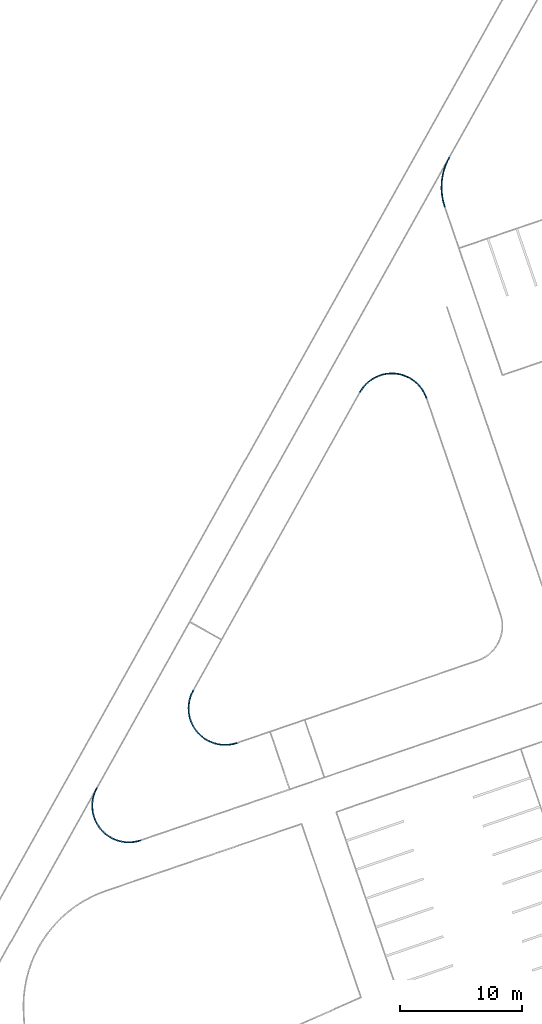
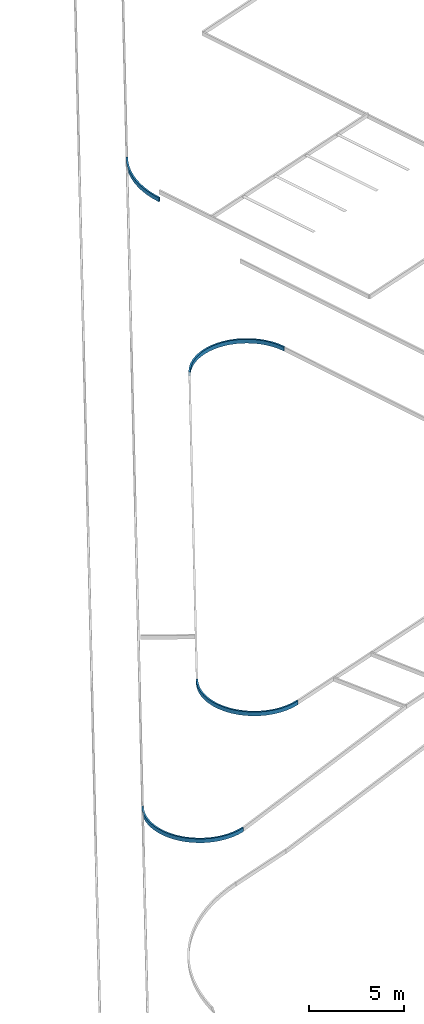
# One storey, part 93 of 112: 4 beams.
"""IFC2X3 building model written with IfcOpenShell, lengths in millimetres."""

from ifc_helpers import new_model, entity, si_unit, converted_unit, derived_unit, direction, frame, origin, place, context, subcontext, project, spatial, faceted_brep, material, type_object, element, save


model = new_model("IFC2X3")

# Units and contexts
model_context = context("Model", 3, precision=0.01, world=origin(), true_north=direction((6.123031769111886e-17, 1.0)))
body_context = subcontext(model_context, "Body", "Model", "MODEL_VIEW")
ifc_project = project(units=[si_unit("LENGTHUNIT", "METRE", prefix="MILLI"), si_unit("AREAUNIT", "SQUARE_METRE"), si_unit("VOLUMEUNIT", "CUBIC_METRE"), converted_unit("PLANEANGLEUNIT", "DEGREE", entity("IfcRatioMeasure", 0.017453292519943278), si_unit("PLANEANGLEUNIT", "RADIAN"), dimensions=[0, 0, 0, 0, 0, 0, 0]), si_unit("MASSUNIT", "GRAM", prefix="KILO"), derived_unit("MASSDENSITYUNIT", [(si_unit("MASSUNIT", "GRAM", prefix="KILO"), 1), (si_unit("LENGTHUNIT", "METRE"), -3)]), derived_unit("MOMENTOFINERTIAUNIT", [(si_unit("LENGTHUNIT", "METRE"), 4)]), si_unit("TIMEUNIT", "SECOND"), si_unit("FREQUENCYUNIT", "HERTZ"), si_unit("THERMODYNAMICTEMPERATUREUNIT", "DEGREE_CELSIUS"), derived_unit("THERMALTRANSMITTANCEUNIT", [(si_unit("MASSUNIT", "GRAM", prefix="KILO"), 1), (si_unit("THERMODYNAMICTEMPERATUREUNIT", "KELVIN"), -1), (si_unit("TIMEUNIT", "SECOND"), -3)]), derived_unit("THERMALCONDUCTANCEUNIT", [(si_unit("MASSUNIT", "GRAM", prefix="KILO"), 1), (si_unit("LENGTHUNIT", "METRE"), 1), (si_unit("THERMODYNAMICTEMPERATUREUNIT", "KELVIN"), -1), (si_unit("TIMEUNIT", "SECOND"), -3)]), derived_unit("VOLUMETRICFLOWRATEUNIT", [(si_unit("LENGTHUNIT", "METRE"), 3), (si_unit("TIMEUNIT", "SECOND"), -1)]), derived_unit("MASSFLOWRATEUNIT", [(si_unit("MASSUNIT", "GRAM", prefix="KILO"), 1), (si_unit("TIMEUNIT", "SECOND"), -1)]), derived_unit("ROTATIONALFREQUENCYUNIT", [(si_unit("TIMEUNIT", "SECOND"), -1)]), si_unit("ELECTRICCURRENTUNIT", "AMPERE"), si_unit("ELECTRICVOLTAGEUNIT", "VOLT"), si_unit("POWERUNIT", "WATT"), converted_unit("FORCEUNIT", "KIP", entity("IfcRatioMeasure", 2.088543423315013e-05), si_unit("FORCEUNIT", "NEWTON"), dimensions=[1, 1, -2, 0, 0, 0, 0]), si_unit("ILLUMINANCEUNIT", "LUX"), si_unit("LUMINOUSFLUXUNIT", "LUMEN"), si_unit("LUMINOUSINTENSITYUNIT", "CANDELA"), derived_unit("USERDEFINED", [(si_unit("MASSUNIT", "GRAM", prefix="KILO"), -1), (si_unit("LENGTHUNIT", "METRE"), -2), (si_unit("TIMEUNIT", "SECOND"), 3), (si_unit("LUMINOUSFLUXUNIT", "LUMEN"), 1)]), derived_unit("USERDEFINED", [(si_unit("MASSUNIT", "GRAM", prefix="KILO"), 1), (si_unit("LENGTHUNIT", "METRE"), 3), (si_unit("TIMEUNIT", "SECOND"), -3), (si_unit("ELECTRICCURRENTUNIT", "AMPERE"), -2)]), derived_unit("USERDEFINED", [(si_unit("LENGTHUNIT", "METRE"), 2), (si_unit("TIMEUNIT", "SECOND"), -2)]), derived_unit("SOUNDPOWERUNIT", [(si_unit("MASSUNIT", "GRAM", prefix="KILO"), 1), (si_unit("LENGTHUNIT", "METRE"), 2), (si_unit("TIMEUNIT", "SECOND"), -3)]), derived_unit("SOUNDPRESSUREUNIT", [(si_unit("MASSUNIT", "GRAM", prefix="KILO"), 1), (si_unit("LENGTHUNIT", "METRE"), -1), (si_unit("TIMEUNIT", "SECOND"), -2)]), derived_unit("LINEARVELOCITYUNIT", [(si_unit("LENGTHUNIT", "METRE"), 1), (si_unit("TIMEUNIT", "SECOND"), -1)]), si_unit("PRESSUREUNIT", "PASCAL"), derived_unit("USERDEFINED", [(si_unit("LENGTHUNIT", "METRE"), -2), (si_unit("MASSUNIT", "GRAM", prefix="KILO"), 1), (si_unit("TIMEUNIT", "SECOND"), -2)]), derived_unit("LINEARFORCEUNIT", [(si_unit("MASSUNIT", "GRAM", prefix="KILO"), 1), (si_unit("LENGTHUNIT", "METRE"), 1), (si_unit("TIMEUNIT", "SECOND"), -2), (si_unit("LENGTHUNIT", "METRE"), -1)]), derived_unit("PLANARFORCEUNIT", [(si_unit("MASSUNIT", "GRAM", prefix="KILO"), 1), (si_unit("LENGTHUNIT", "METRE"), 1), (si_unit("TIMEUNIT", "SECOND"), -2), (si_unit("LENGTHUNIT", "METRE"), -2)]), derived_unit("SPECIFICHEATCAPACITYUNIT", [(si_unit("LENGTHUNIT", "METRE"), 2), (si_unit("TIMEUNIT", "SECOND"), -2), (si_unit("THERMODYNAMICTEMPERATUREUNIT", "KELVIN"), -1)]), derived_unit("VAPORPERMEABILITYUNIT", [(si_unit("TIMEUNIT", "SECOND"), 1), (si_unit("LENGTHUNIT", "METRE"), -1)]), derived_unit("DYNAMICVISCOSITYUNIT", [(si_unit("MASSUNIT", "GRAM", prefix="KILO"), 1), (si_unit("LENGTHUNIT", "METRE"), -1), (si_unit("TIMEUNIT", "SECOND"), -1)]), derived_unit("THERMALEXPANSIONCOEFFICIENTUNIT", [(si_unit("THERMODYNAMICTEMPERATUREUNIT", "KELVIN"), -1)])], contexts=[model_context])

# Site, building, storey
site_placement = place(None, frame((0.0, 0.0, 0.0), z_axis=(0.0, 0.0, 1.0), x_axis=(0.8191520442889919, 0.5735764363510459, 0.0)))
site = spatial("IfcSite", under=ifc_project, at=site_placement, Name="Default", CompositionType="ELEMENT")
building_placement = place(site_placement, origin())
building = spatial("IfcBuilding", under=site, at=building_placement, CompositionType="ELEMENT")
storey_placement = place(building_placement, frame((0.0, 0.0, -3600.0)))
storey = spatial("IfcBuildingStorey", under=building, at=storey_placement, Name="0.UG -3.60", CompositionType="ELEMENT", Elevation=-3600.0000000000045)

# Beams
ifc_material = material(Name="Paveta_bordur")
beam_type_1 = type_object("IfcBeamType", Name="Beam-160", PredefinedType="NOTDEFINED")
beam_1_placement = place(storey_placement, frame((68074.18437728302, 141673.35695483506, 860.0)))
element("IfcBeam", 1, at=beam_1_placement, inside=storey, type_object=beam_type_1, material=ifc_material, Name="Beam-160:Beam-160", ObjectType="Beam-160:Beam-160", context=body_context, shape_type="Brep", body=[
    faceted_brep([(97.66856973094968, 1.5952722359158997, 0.0), (97.66856973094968, 1.5952722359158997, 250.0), (1.5952722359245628, 29.342731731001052, 250.0), (1.5952722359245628, 29.342731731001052, 0.0), (2655.5742816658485, 3174.799860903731, 0.0), (2655.5742816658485, 3174.799860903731, 250.0), (2699.093539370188, 3084.7661216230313, 250.0), (2699.093539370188, 3084.7661216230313, 0.0), (171.25365908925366, 234.63643026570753, 0.0), (171.25365908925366, 234.63643026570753, 250.0), (256.25086609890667, 463.76177044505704, 0.0), (352.4530166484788, 688.4128174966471, 0.0), (352.4530166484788, 688.4128174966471, 250.0), (256.25086609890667, 463.76177044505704, 250.0), (844.2241376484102, 1531.5140856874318, 250.0), (705.8112151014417, 1330.1070113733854, 250.0), (705.8112151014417, 1330.1070113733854, 0.0), (844.2241376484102, 1531.5140856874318, 0.0), (577.5074675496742, 1122.1139944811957, 250.0), (459.62562544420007, 908.0420018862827, 250.0), (459.62562544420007, 908.0420018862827, 0.0), (577.5074675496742, 1122.1139944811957, 0.0), (992.4088644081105, 1725.8443032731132, 250.0), (992.4088644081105, 1725.8443032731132, 0.0), (1150.0042065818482, 1912.6239992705, 0.0), (1150.0042065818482, 1912.6239992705, 250.0), (1491.8682300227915, 2261.7302957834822, 250.0), (1316.6260377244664, 2091.3979126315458, 250.0), (1316.6260377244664, 2091.3979126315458, 0.0), (1491.8682300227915, 2261.7302957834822, 0.0), (1675.303644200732, 2423.205976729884, 250.0), (1675.303644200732, 2423.205976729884, 0.0), (2481.7589772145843, 2973.0135610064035, 0.0), (2481.7589772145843, 2973.0135610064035, 250.0), (2270.2048548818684, 2850.6706002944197, 250.0), (2270.2048548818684, 2850.6706002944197, 0.0), (2064.946819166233, 2718.03544098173, 250.0), (1866.4851706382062, 2575.4313710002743, 250.0), (1866.4851706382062, 2575.4313710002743, 0.0), (2064.946819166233, 2718.03544098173, 0.0), (1423.9605822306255, 2335.13704868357, 250.0), (1075.190214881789, 1978.978099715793, 250.0), (914.4111284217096, 1788.4250765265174, 250.0), (622.0236276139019, 1384.6930918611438, 250.0), (370.86459170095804, 954.1015165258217, 250.0), (163.38125135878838, 500.8459268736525, 250.0), (2218.0211793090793, 2935.9751371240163, 250.0), (1806.1455418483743, 2655.1755193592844, 250.0), (163.38125135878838, 500.8459268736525, 0.0), (622.0236276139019, 1384.6930918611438, 0.0), (370.8645917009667, 954.1015165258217, 0.0), (914.4111284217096, 1788.4250765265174, 0.0), (1075.190214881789, 1978.978099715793, 0.0), (1423.9605822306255, 2335.13704868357, 0.0), (2218.0211793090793, 2935.9751371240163, 0.0), (1806.145541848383, 2655.1755193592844, 0.0)], [[[0, 1, 2, 3]], [[4, 5, 6, 7]], [[0, 8, 9, 1]], [[10, 11, 12, 13]], [[10, 13, 9, 8]], [[14, 15, 16, 17]], [[18, 19, 20, 21]], [[18, 21, 16, 15]], [[19, 12, 11, 20]], [[22, 14, 17, 23]], [[23, 24, 25, 22]], [[26, 27, 28, 29]], [[27, 25, 24, 28]], [[30, 26, 29, 31]], [[32, 33, 34, 35]], [[36, 37, 38, 39]], [[34, 36, 39, 35]], [[38, 37, 30, 31]], [[6, 33, 32, 7]], [[40, 41, 42, 43, 44, 45, 2, 1, 9, 13, 12, 19, 18, 15, 14, 22, 25, 27, 26, 30, 37, 36, 34, 33, 6, 5, 46, 47]], [[2, 45, 48, 3]], [[49, 50, 44, 43]], [[45, 44, 50, 48]], [[42, 51, 49, 43]], [[42, 41, 52, 51]], [[53, 52, 41, 40]], [[54, 55, 47, 46]], [[40, 47, 55, 53]], [[4, 54, 46, 5]], [[31, 29, 28, 24, 23, 17, 16, 21, 20, 11, 10, 8, 0, 3, 48, 50, 49, 51, 52, 53, 55, 54, 4, 7, 32, 35, 39, 38]]]),
])
beam_type_2 = type_object("IfcBeamType", Name="Beam-163", PredefinedType="NOTDEFINED")
beam_2_placement = place(storey_placement, frame((15664.354400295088, 113387.02361337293, 860.0)))
element("IfcBeam", 2, at=beam_2_placement, inside=storey, type_object=beam_type_2, material=ifc_material, Name="Beam-163 237331:Beam-163 237331", ObjectType="Beam-163 237331:Beam-163 237331", context=body_context, shape_type="Brep", body=[
    faceted_brep([(1767.1116898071, 5587.833126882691, 250.0), (1767.1116898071, 5587.833126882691, 0.0), (1723.5929210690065, 5677.867102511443, 0.0), (1723.5929210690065, 5677.867102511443, 250.0), (2204.617852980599, 1.5952722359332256, 0.0), (2232.36531247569, 97.66856973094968, 0.0), (2232.36531247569, 97.66856973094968, 250.0), (2204.617852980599, 1.5952722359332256, 250.0), (2049.614437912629, 156.96211952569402, 0.0), (1840.7085984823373, 132.20594666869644, 0.0), (1496.247096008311, 307.8059668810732, 0.0), (1176.7687648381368, 525.5734798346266, 0.0), (887.4075502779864, 782.0090103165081, 0.0), (632.8134223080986, 1072.9916967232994, 0.0), (417.07765160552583, 1393.8455123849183, 0.0), (243.66706373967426, 1739.4144082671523, 0.0), (115.36832806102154, 2104.1451695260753, 0.0), (34.24317654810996, 2482.1766544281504, 0.0), (1.5952722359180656, 2867.4339815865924, 0.0), (17.949259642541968, 3253.726151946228, 0.0), (83.04233384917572, 3634.845536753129, 0.0), (195.82846371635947, 4004.6676327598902, 0.0), (354.4952013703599, 4357.249481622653, 0.0), (556.4928078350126, 4686.92517191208, 0.0), (798.5752267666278, 4988.3968890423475, 0.0), (1076.8522478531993, 5256.820049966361, 0.0), (1386.852021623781, 5487.881154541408, 0.0), (1596.9446974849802, 5498.632219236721, 0.0), (1432.9450481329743, 5398.543647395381, 0.0), (1275.8083830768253, 5287.991959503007, 0.0), (1126.2012327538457, 5167.446085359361, 0.0), (984.7581894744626, 5037.417347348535, 0.0), (852.0792156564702, 4898.457291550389, 0.0), (728.727098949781, 4751.155348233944, 0.0), (615.2250650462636, 4596.1363316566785, 0.0), (512.0545583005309, 4434.057789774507, 0.0), (419.6531995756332, 4265.60721510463, 0.0), (338.412929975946, 4091.4991285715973, 0.0), (268.6783483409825, 3912.472048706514, 0.0), (210.74524955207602, 3729.2853590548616, 0.0), (164.85936985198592, 3542.7160870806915, 0.0), (131.21534449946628, 3353.5556082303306, 0.0), (109.95588218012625, 3162.6062891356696, 0.0), (101.1711596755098, 2970.678084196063, 0.0), (104.89843935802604, 2778.5850999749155, 0.0), (121.12191113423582, 2587.142141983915, 0.0), (149.77275950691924, 2397.161258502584, 0.0), (190.729455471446, 2209.4482960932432, 0.0), (243.81827200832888, 2024.7994814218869, 0.0), (308.8140209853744, 1843.9980438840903, 0.0), (385.4410083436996, 1667.8108933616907, 0.0), (473.3742035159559, 1496.9853672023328, 0.0), (572.240618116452, 1332.2460602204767, 0.0), (681.6208880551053, 1174.2917511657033, 0.0), (801.0510523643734, 1023.7924386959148, 0.0), (930.0245211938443, 881.3864994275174, 0.0), (1067.99422462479, 747.6779801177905, 0.0), (1214.3749331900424, 623.2340354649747, 0.0), (1368.5457402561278, 508.58252239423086, 0.0), (1529.8526957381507, 404.20976103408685, 0.0), (1697.6115799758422, 310.5584718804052, 0.0), (1871.1108060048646, 228.02589789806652, 0.0), (1386.852021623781, 5487.881154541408, 250.0), (556.4928078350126, 4686.92517191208, 250.0), (798.5752267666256, 4988.3968890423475, 250.0), (1076.8522478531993, 5256.820049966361, 250.0), (17.9492596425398, 3253.726151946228, 250.0), (83.04233384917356, 3634.845536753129, 250.0), (354.49520137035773, 4357.24948162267, 250.0), (195.82846371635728, 4004.6676327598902, 250.0), (1.5952722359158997, 2867.4339815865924, 250.0), (34.24317654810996, 2482.1766544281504, 250.0), (243.66706373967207, 1739.4144082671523, 250.0), (417.07765160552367, 1393.8455123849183, 250.0), (115.36832806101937, 2104.1451695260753, 250.0), (632.8134223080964, 1072.9916967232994, 250.0), (1840.708598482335, 132.2059466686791, 250.0), (1496.247096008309, 307.8059668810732, 250.0), (887.4075502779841, 782.0090103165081, 250.0), (1176.7687648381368, 525.5734798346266, 250.0), (2049.614437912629, 156.96211952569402, 250.0), (1871.1108060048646, 228.02589789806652, 250.0), (1697.6115799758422, 310.5584718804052, 250.0), (1529.8526957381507, 404.20976103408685, 250.0), (1368.5457402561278, 508.58252239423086, 250.0), (1214.3749331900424, 623.2340354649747, 250.0), (1067.99422462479, 747.6779801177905, 250.0), (930.0245211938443, 881.3864994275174, 250.0), (801.0510523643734, 1023.7924386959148, 250.0), (681.6208880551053, 1174.2917511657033, 250.0), (572.240618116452, 1332.2460602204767, 250.0), (473.3742035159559, 1496.9853672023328, 250.0), (385.4410083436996, 1667.8108933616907, 250.0), (308.8140209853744, 1843.9980438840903, 250.0), (243.81827200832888, 2024.7994814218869, 250.0), (190.729455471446, 2209.4482960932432, 250.0), (149.77275950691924, 2397.161258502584, 250.0), (121.12191113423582, 2587.142141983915, 250.0), (104.89843935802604, 2778.5850999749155, 250.0), (101.1711596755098, 2970.678084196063, 250.0), (109.95588218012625, 3162.6062891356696, 250.0), (131.21534449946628, 3353.5556082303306, 250.0), (164.85936985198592, 3542.7160870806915, 250.0), (210.74524955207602, 3729.2853590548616, 250.0), (268.6783483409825, 3912.472048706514, 250.0), (338.412929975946, 4091.4991285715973, 250.0), (419.6531995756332, 4265.60721510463, 250.0), (512.0545583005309, 4434.057789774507, 250.0), (615.2250650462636, 4596.1363316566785, 250.0), (728.727098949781, 4751.155348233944, 250.0), (852.0792156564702, 4898.457291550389, 250.0), (984.7581894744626, 5037.417347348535, 250.0), (1126.2012327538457, 5167.446085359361, 250.0), (1275.8083830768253, 5287.991959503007, 250.0), (1432.9450481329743, 5398.543647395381, 250.0), (1596.9446974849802, 5498.632219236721, 250.0)], [[[0, 1, 2, 3]], [[4, 5, 6, 7]], [[8, 5, 4, 9, 10, 11, 12, 13, 14, 15, 16, 17, 18, 19, 20, 21, 22, 23, 24, 25, 26, 2, 1, 27, 28, 29, 30, 31, 32, 33, 34, 35, 36, 37, 38, 39, 40, 41, 42, 43, 44, 45, 46, 47, 48, 49, 50, 51, 52, 53, 54, 55, 56, 57, 58, 59, 60, 61]], [[62, 3, 2, 26]], [[63, 64, 24, 23]], [[26, 25, 65, 62]], [[24, 64, 65, 25]], [[20, 19, 66, 67]], [[68, 22, 21, 69]], [[69, 21, 20, 67]], [[23, 22, 68, 63]], [[66, 19, 18, 70]], [[18, 17, 71, 70]], [[72, 15, 14, 73]], [[71, 17, 16, 74]], [[15, 72, 74, 16]], [[73, 14, 13, 75]], [[10, 9, 76, 77]], [[78, 12, 11, 79]], [[79, 11, 10, 77]], [[13, 12, 78, 75]], [[76, 9, 4, 7]], [[7, 6, 80, 81, 82, 83, 84, 85, 86, 87, 88, 89, 90, 91, 92, 93, 94, 95, 96, 97, 98, 99, 100, 101, 102, 103, 104, 105, 106, 107, 108, 109, 110, 111, 112, 113, 114, 115, 0, 3, 62, 65, 64, 63, 68, 69, 67, 66, 70, 71, 74, 72, 73, 75, 78, 79, 77, 76]], [[1, 0, 115, 27]], [[28, 27, 115, 114]], [[113, 29, 28, 114]], [[31, 30, 112, 111]], [[33, 32, 110, 109]], [[33, 109, 108, 34]], [[29, 113, 112, 30]], [[32, 31, 111, 110]], [[40, 39, 103, 102]], [[42, 41, 101, 100]], [[102, 101, 41, 40]], [[43, 42, 100, 99]], [[36, 35, 107, 106]], [[105, 104, 38, 37]], [[36, 106, 105, 37]], [[39, 38, 104, 103]], [[35, 34, 108, 107]], [[44, 43, 99, 98]], [[98, 97, 45, 44]], [[49, 93, 92, 50]], [[50, 92, 91, 51]], [[51, 91, 90, 52]], [[46, 45, 97, 96]], [[48, 47, 95, 94]], [[96, 95, 47, 46]], [[48, 94, 93, 49]], [[53, 52, 90, 89]], [[59, 58, 84, 83]], [[61, 60, 82, 81]], [[83, 82, 60, 59]], [[8, 61, 81, 80]], [[55, 54, 88, 87]], [[86, 85, 57, 56]], [[55, 87, 86, 56]], [[58, 57, 85, 84]], [[54, 53, 89, 88]], [[5, 8, 80, 6]]]),
])
beam_type_3 = type_object("IfcBeamType", Name="Beam-152", PredefinedType="NOTDEFINED")
beam_3_placement = place(storey_placement, frame((53684.269342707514, 129683.82586544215, 1360.0)))
element("IfcBeam", 3, at=beam_3_placement, inside=storey, type_object=beam_type_3, material=ifc_material, Name="Beam-152:Beam-152", ObjectType="Beam-152:Beam-152", context=body_context, shape_type="Brep", body=[
    faceted_brep([(4163.079994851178, 29.342731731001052, 250.0), (4163.079994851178, 29.342731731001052, 0.0), (4259.153292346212, 1.5952722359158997, 0.0), (4259.153292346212, 1.5952722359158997, 250.0), (1.5952722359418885, 3593.9290435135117, 0.0), (45.114040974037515, 3503.89506788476, 0.0), (45.114040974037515, 3503.89506788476, 250.0), (1.5952722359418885, 3593.9290435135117, 250.0), (217.47444096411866, 3580.5094522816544, 0.0), (362.69939372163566, 3740.801729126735, 0.0), (739.5878792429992, 3840.415191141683, 0.0), (1126.1037921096, 3891.1421212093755, 0.0), (1515.9329197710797, 3892.1538325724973, 0.0), (1902.7069242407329, 3843.4337976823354, 0.0), (2280.1073767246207, 3745.777918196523, 0.0), (2641.968976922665, 3600.7815229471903, 0.0), (2982.3802707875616, 3410.8133062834, 0.0), (3295.7802213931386, 3178.976632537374, 0.0), (3577.04905530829, 2909.058838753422, 0.0), (3821.591900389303, 2605.4693638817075, 0.0), (4025.4138486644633, 2273.16771517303, 0.0), (4185.185218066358, 1917.582448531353, 0.0), (4298.295946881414, 1544.5224863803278, 0.0), (4362.8982323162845, 1160.0822217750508, 0.0), (4377.936716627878, 770.5419590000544, 0.0), (4343.165727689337, 382.2653170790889, 0.0), (4209.597408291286, 212.13770329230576, 0.0), (4244.337924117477, 397.5317914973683, 0.0), (4267.159514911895, 584.7670616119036, 0.0), (4277.968880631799, 773.0780517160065, 0.0), (4276.721830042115, 961.6949020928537, 0.0), (4263.4234613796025, 1149.8465025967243, 0.0), (4238.1281415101, 1336.7636451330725, 0.0), (4200.939283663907, 1521.682168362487, 0.0), (4152.008924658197, 1703.8460817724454, 0.0), (4091.5371033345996, 1882.5106563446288, 0.0), (4019.77104275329, 2056.945469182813, 0.0), (3937.0041394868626, 2226.4373896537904, 0.0), (3843.574764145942, 2390.2934948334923, 0.0), (3739.8648780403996, 2547.8439023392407, 0.0), (3626.2984716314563, 2698.444508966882, 0.0), (3503.3398311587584, 2841.4796239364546, 0.0), (3371.4916405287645, 2976.364485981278, 0.0), (3231.2929262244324, 3102.5476539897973, 0.0), (3083.3168536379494, 3219.51326142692, 0.0), (2928.168383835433, 3326.783125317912, 0.0), (2766.481800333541, 3423.9187011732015, 0.0), (2598.9181159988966, 3510.522875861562, 0.0), (2426.1623706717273, 3586.241591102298, 0.0), (2248.920830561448, 3650.7652909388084, 0.0), (2067.918100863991, 3703.8301872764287, 0.0), (1883.894163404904, 3745.2193383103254, 0.0), (1697.601351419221, 3774.763535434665, 0.0), (1509.801273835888, 3792.3419950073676, 0.0), (1321.2617016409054, 3797.882852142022, 0.0), (1132.7534290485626, 3791.3634545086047, 0.0), (945.0471223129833, 3772.810454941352, 0.0), (758.9101690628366, 3742.299702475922, 0.0), (575.103541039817, 3699.9559322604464, 0.0), (394.37868306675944, 3645.952255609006, 0.0), (4343.165727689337, 382.2653170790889, 250.0), (4377.936716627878, 770.5419590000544, 250.0), (3577.04905530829, 2909.058838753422, 250.0), (3821.591900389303, 2605.4693638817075, 250.0), (4185.185218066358, 1917.582448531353, 250.0), (4025.4138486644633, 2273.16771517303, 250.0), (4298.295946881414, 1544.5224863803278, 250.0), (3295.7802213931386, 3178.976632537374, 250.0), (4362.8982323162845, 1160.0822217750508, 250.0), (2641.968976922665, 3600.781522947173, 250.0), (2280.1073767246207, 3745.777918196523, 250.0), (2982.3802707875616, 3410.8133062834, 250.0), (1902.7069242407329, 3843.4337976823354, 250.0), (362.699393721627, 3740.801729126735, 250.0), (739.5878792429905, 3840.415191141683, 250.0), (1515.932919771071, 3892.1538325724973, 250.0), (1126.1037921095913, 3891.1421212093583, 250.0), (217.47444096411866, 3580.5094522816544, 250.0), (394.37868306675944, 3645.952255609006, 250.0), (575.103541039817, 3699.9559322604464, 250.0), (758.9101690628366, 3742.299702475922, 250.0), (945.0471223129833, 3772.810454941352, 250.0), (1132.7534290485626, 3791.3634545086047, 250.0), (1321.2617016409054, 3797.882852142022, 250.0), (1509.801273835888, 3792.3419950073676, 250.0), (1697.601351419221, 3774.763535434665, 250.0), (1883.894163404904, 3745.2193383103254, 250.0), (2067.918100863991, 3703.8301872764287, 250.0), (2248.920830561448, 3650.7652909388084, 250.0), (2426.1623706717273, 3586.241591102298, 250.0), (2598.9181159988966, 3510.522875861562, 250.0), (2766.481800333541, 3423.9187011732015, 250.0), (2928.168383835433, 3326.783125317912, 250.0), (3083.3168536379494, 3219.51326142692, 250.0), (3231.2929262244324, 3102.5476539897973, 250.0), (3371.4916405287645, 2976.364485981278, 250.0), (3503.3398311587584, 2841.4796239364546, 250.0), (3626.2984716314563, 2698.444508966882, 250.0), (3739.8648780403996, 2547.8439023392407, 250.0), (3843.574764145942, 2390.2934948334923, 250.0), (3937.0041394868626, 2226.4373896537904, 250.0), (4019.77104275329, 2056.945469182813, 250.0), (4091.5371033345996, 1882.5106563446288, 250.0), (4152.008924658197, 1703.8460817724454, 250.0), (4200.939283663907, 1521.682168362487, 250.0), (4238.1281415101, 1336.7636451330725, 250.0), (4263.4234613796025, 1149.8465025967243, 250.0), (4276.721830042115, 961.6949020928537, 250.0), (4277.968880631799, 773.0780517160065, 250.0), (4267.159514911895, 584.7670616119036, 250.0), (4244.337924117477, 397.5317914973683, 250.0), (4209.597408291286, 212.13770329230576, 250.0)], [[[0, 1, 2, 3]], [[4, 5, 6, 7]], [[8, 5, 4, 9, 10, 11, 12, 13, 14, 15, 16, 17, 18, 19, 20, 21, 22, 23, 24, 25, 2, 1, 26, 27, 28, 29, 30, 31, 32, 33, 34, 35, 36, 37, 38, 39, 40, 41, 42, 43, 44, 45, 46, 47, 48, 49, 50, 51, 52, 53, 54, 55, 56, 57, 58, 59]], [[60, 3, 2, 25]], [[61, 60, 25, 24]], [[19, 18, 62, 63]], [[64, 21, 20, 65]], [[65, 20, 19, 63]], [[21, 64, 66, 22]], [[62, 18, 17, 67]], [[23, 68, 61, 24]], [[23, 22, 66, 68]], [[69, 15, 14, 70]], [[71, 16, 15, 69]], [[70, 14, 13, 72]], [[10, 9, 73, 74]], [[75, 12, 11, 76]], [[76, 11, 10, 74]], [[13, 12, 75, 72]], [[73, 9, 4, 7]], [[67, 17, 16, 71]], [[7, 6, 77, 78, 79, 80, 81, 82, 83, 84, 85, 86, 87, 88, 89, 90, 91, 92, 93, 94, 95, 96, 97, 98, 99, 100, 101, 102, 103, 104, 105, 106, 107, 108, 109, 110, 111, 0, 3, 60, 61, 68, 66, 64, 65, 63, 62, 67, 71, 69, 70, 72, 75, 76, 74, 73]], [[1, 0, 111, 26]], [[26, 111, 110, 27]], [[29, 28, 109, 108]], [[33, 32, 105, 104]], [[109, 28, 27, 110]], [[34, 33, 104, 103]], [[30, 29, 108, 107]], [[40, 39, 98, 97]], [[41, 40, 97, 96]], [[42, 41, 96, 95]], [[36, 35, 102, 101]], [[100, 99, 38, 37]], [[36, 101, 100, 37]], [[39, 38, 99, 98]], [[34, 103, 102, 35]], [[42, 95, 94, 43]], [[106, 31, 30, 107]], [[31, 106, 105, 32]], [[48, 89, 88, 49]], [[49, 88, 87, 50]], [[50, 87, 86, 51]], [[45, 44, 93, 92]], [[47, 46, 91, 90]], [[92, 91, 46, 45]], [[47, 90, 89, 48]], [[52, 51, 86, 85]], [[58, 57, 80, 79]], [[59, 58, 79, 78]], [[8, 59, 78, 77]], [[54, 53, 84, 83]], [[82, 81, 56, 55]], [[54, 83, 82, 55]], [[57, 56, 81, 80]], [[52, 85, 84, 53]], [[5, 8, 77, 6]], [[93, 44, 43, 94]]]),
])
beam_type_4 = type_object("IfcBeamType", Name="Beam-150", PredefinedType="NOTDEFINED")
beam_4_placement = place(storey_placement, frame((26719.407775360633, 115398.51213435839, 1360.0)))
element("IfcBeam", 4, at=beam_4_placement, inside=storey, type_object=beam_type_4, material=ifc_material, Name="Beam-150 237352:Beam-150 237352", ObjectType="Beam-150 237352:Beam-150 237352", context=body_context, shape_type="Brep", body=[
    faceted_brep([(1767.1116887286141, 5587.833156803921, 250.0), (1767.1116887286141, 5587.833156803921, 0.0), (1723.592919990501, 5677.867132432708, 0.0), (1723.592919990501, 5677.867132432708, 250.0), (2204.6179555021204, 1.5952722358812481, 0.0), (2232.365411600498, 97.668570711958, 0.0), (2232.365411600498, 97.668570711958, 250.0), (2204.6179555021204, 1.5952722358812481, 250.0), (2049.6145322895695, 156.96211500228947, 0.0), (1840.7086911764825, 132.2059360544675, 0.0), (1496.247177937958, 307.80594762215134, 0.0), (1176.7688354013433, 525.573453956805, 0.0), (887.4076092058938, 782.008979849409, 0.0), (632.8134696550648, 1072.9916636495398, 0.0), (417.07768773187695, 1393.8454785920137, 0.0), (243.66708928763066, 1739.4143755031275, 0.0), (115.3683439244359, 2104.1451393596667, 0.0), (34.24318383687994, 2482.1766282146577, 0.0), (1.5952722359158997, 2867.433960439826, 0.0), (17.94925377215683, 3253.7261367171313, 0.0), (83.04232361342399, 3634.845528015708, 0.0), (195.8284506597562, 4004.667630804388, 0.0), (354.49518702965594, 4357.24948645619, 0.0), (556.4927936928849, 4686.925183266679, 0.0), (798.5752142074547, 4988.396906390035, 0.0), (1076.8522381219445, 5256.820072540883, 0.0), (1386.8520157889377, 5487.881181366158, 0.0), (1596.9446939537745, 5498.632247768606, 0.0), (1432.9450423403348, 5398.543674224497, 0.0), (1275.808375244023, 5287.99198433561, 0.0), (1126.201223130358, 5167.446107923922, 0.0), (984.7581783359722, 5037.41736739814, 0.0), (852.0792033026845, 4898.457308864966, 0.0), (728.7270857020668, 4751.155362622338, 0.0), (615.2250512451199, 4596.136342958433, 0.0), (512.054544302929, 4434.0577978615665, 0.0), (419.6531857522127, 4265.607219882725, 0.0), (338.41291670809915, 4091.4991299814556, 0.0), (268.67833601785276, 3912.4720467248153, 0.0), (210.74523856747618, 3729.285353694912, 0.0), (164.85936060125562, 3542.716078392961, 0.0), (131.2153373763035, 3353.555596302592, 0.0), (109.95587757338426, 3162.6062740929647, 0.0), (101.17115796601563, 2970.6780662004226, 0.0), (104.89844091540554, 2778.5850792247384, 0.0), (121.12191631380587, 2587.142118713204, 0.0), (149.77276864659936, 2397.161232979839, 0.0), (190.7294688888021, 2209.4482686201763, 0.0), (243.81828999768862, 2024.7994523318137, 0.0), (308.81404381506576, 1843.9980135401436, 0.0), (385.44103625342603, 1667.8108621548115, 0.0), (473.3742367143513, 1496.985335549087, 0.0), (572.2406567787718, 1332.2460285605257, 0.0), (681.6209323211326, 1174.2917199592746, 0.0), (801.0511023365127, 1023.7924084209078, 0.0), (930.0245769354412, 881.3864705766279, 0.0), (1067.9942861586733, 747.6779531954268, 0.0), (1214.3750004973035, 623.2340109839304, 0.0), (1368.5458132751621, 508.58250087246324, 0.0), (1529.8527743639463, 404.2097429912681, 0.0), (1697.6116640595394, 310.5584578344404, 0.0), (1871.110895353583, 228.02588836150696, 0.0), (1386.8520157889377, 5487.881181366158, 250.0), (556.4927936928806, 4686.925183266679, 250.0), (798.5752142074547, 4988.396906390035, 250.0), (1076.8522381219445, 5256.820072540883, 250.0), (17.9492537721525, 3253.7261367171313, 250.0), (83.04232361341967, 3634.845528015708, 250.0), (354.49518702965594, 4357.24948645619, 250.0), (195.8284506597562, 4004.667630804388, 250.0), (1.5952722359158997, 2867.433960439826, 250.0), (34.24318383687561, 2482.1766282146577, 250.0), (243.6670892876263, 1739.4143755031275, 250.0), (417.0776877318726, 1393.8454785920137, 250.0), (115.3683439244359, 2104.1451393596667, 250.0), (632.8134696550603, 1072.9916636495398, 250.0), (1840.7086911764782, 132.20593605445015, 250.0), (1496.2471779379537, 307.80594762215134, 250.0), (887.4076092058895, 782.008979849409, 250.0), (1176.768835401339, 525.573453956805, 250.0), (2049.6145322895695, 156.96211500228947, 250.0), (1871.110895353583, 228.02588836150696, 250.0), (1697.6116640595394, 310.5584578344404, 250.0), (1529.8527743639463, 404.2097429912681, 250.0), (1368.5458132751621, 508.58250087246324, 250.0), (1214.3750004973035, 623.2340109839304, 250.0), (1067.9942861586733, 747.6779531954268, 250.0), (930.0245769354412, 881.3864705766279, 250.0), (801.0511023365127, 1023.7924084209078, 250.0), (681.6209323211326, 1174.2917199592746, 250.0), (572.2406567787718, 1332.2460285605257, 250.0), (473.3742367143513, 1496.985335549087, 250.0), (385.44103625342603, 1667.8108621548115, 250.0), (308.81404381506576, 1843.9980135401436, 250.0), (243.81828999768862, 2024.7994523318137, 250.0), (190.7294688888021, 2209.4482686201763, 250.0), (149.77276864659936, 2397.161232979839, 250.0), (121.12191631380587, 2587.142118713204, 250.0), (104.89844091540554, 2778.5850792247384, 250.0), (101.17115796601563, 2970.6780662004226, 250.0), (109.95587757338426, 3162.6062740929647, 250.0), (131.2153373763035, 3353.555596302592, 250.0), (164.85936060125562, 3542.716078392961, 250.0), (210.74523856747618, 3729.285353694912, 250.0), (268.67833601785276, 3912.4720467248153, 250.0), (338.41291670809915, 4091.4991299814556, 250.0), (419.6531857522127, 4265.607219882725, 250.0), (512.054544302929, 4434.0577978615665, 250.0), (615.2250512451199, 4596.136342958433, 250.0), (728.7270857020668, 4751.155362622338, 250.0), (852.0792033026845, 4898.457308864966, 250.0), (984.7581783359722, 5037.41736739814, 250.0), (1126.201223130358, 5167.446107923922, 250.0), (1275.808375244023, 5287.99198433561, 250.0), (1432.9450423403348, 5398.543674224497, 250.0), (1596.9446939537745, 5498.632247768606, 250.0)], [[[0, 1, 2, 3]], [[4, 5, 6, 7]], [[8, 5, 4, 9, 10, 11, 12, 13, 14, 15, 16, 17, 18, 19, 20, 21, 22, 23, 24, 25, 26, 2, 1, 27, 28, 29, 30, 31, 32, 33, 34, 35, 36, 37, 38, 39, 40, 41, 42, 43, 44, 45, 46, 47, 48, 49, 50, 51, 52, 53, 54, 55, 56, 57, 58, 59, 60, 61]], [[62, 3, 2, 26]], [[63, 64, 24, 23]], [[26, 25, 65, 62]], [[24, 64, 65, 25]], [[20, 19, 66, 67]], [[68, 22, 21, 69]], [[69, 21, 20, 67]], [[23, 22, 68, 63]], [[66, 19, 18, 70]], [[18, 17, 71, 70]], [[72, 15, 14, 73]], [[71, 17, 16, 74]], [[15, 72, 74, 16]], [[73, 14, 13, 75]], [[10, 9, 76, 77]], [[78, 12, 11, 79]], [[79, 11, 10, 77]], [[13, 12, 78, 75]], [[76, 9, 4, 7]], [[7, 6, 80, 81, 82, 83, 84, 85, 86, 87, 88, 89, 90, 91, 92, 93, 94, 95, 96, 97, 98, 99, 100, 101, 102, 103, 104, 105, 106, 107, 108, 109, 110, 111, 112, 113, 114, 115, 0, 3, 62, 65, 64, 63, 68, 69, 67, 66, 70, 71, 74, 72, 73, 75, 78, 79, 77, 76]], [[1, 0, 115, 27]], [[28, 27, 115, 114]], [[113, 29, 28, 114]], [[31, 30, 112, 111]], [[33, 32, 110, 109]], [[33, 109, 108, 34]], [[29, 113, 112, 30]], [[32, 31, 111, 110]], [[40, 39, 103, 102]], [[42, 41, 101, 100]], [[102, 101, 41, 40]], [[43, 42, 100, 99]], [[36, 35, 107, 106]], [[105, 104, 38, 37]], [[36, 106, 105, 37]], [[39, 38, 104, 103]], [[35, 34, 108, 107]], [[44, 43, 99, 98]], [[98, 97, 45, 44]], [[49, 93, 92, 50]], [[50, 92, 91, 51]], [[51, 91, 90, 52]], [[46, 45, 97, 96]], [[48, 47, 95, 94]], [[96, 95, 47, 46]], [[48, 94, 93, 49]], [[53, 52, 90, 89]], [[59, 58, 84, 83]], [[61, 60, 82, 81]], [[83, 82, 60, 59]], [[8, 61, 81, 80]], [[55, 54, 88, 87]], [[86, 85, 57, 56]], [[55, 87, 86, 56]], [[58, 57, 85, 84]], [[54, 53, 89, 88]], [[5, 8, 80, 6]]]),
])

save(model, "model.ifc")
